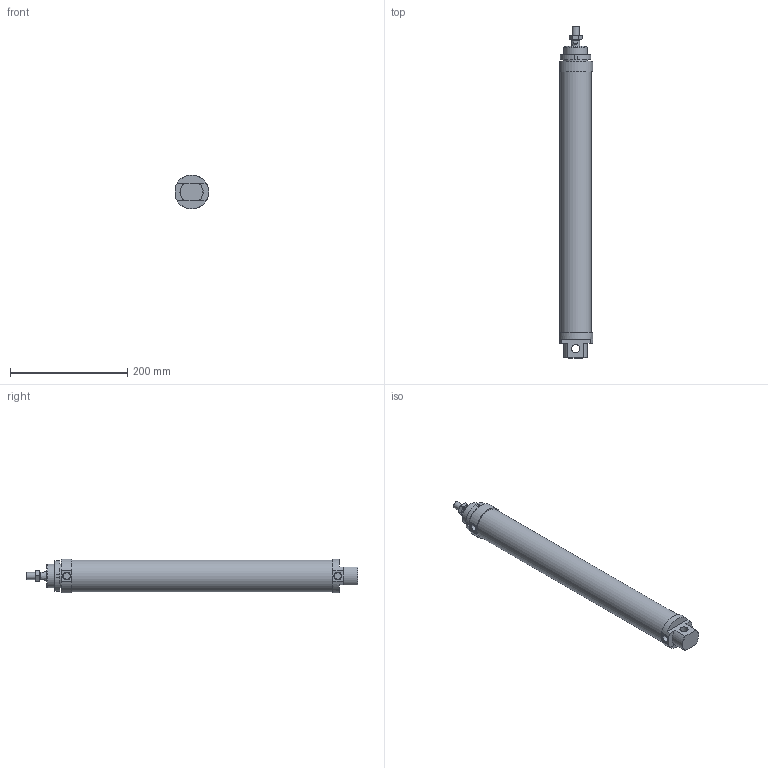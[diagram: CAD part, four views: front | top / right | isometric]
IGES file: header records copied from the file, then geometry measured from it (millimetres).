
Global section: file name: No Iges File Name specified; native system: AutoDesk Inventor R6.0; preprocessor: AutoDesk Inventor Iges Exporter R6.0; author: No Author specified; organization: No Organization specified; date: 20030402.145102; units: millimetre
Bounding box: 56.51 x 567 x 58 mm (x, y, z)
Surface area: 142049.3 mm2 (no closed solid volume)
Topology: 0 solids, 0 shells, 94 faces, 413 edges, 395 vertices
Faces by surface type: plane 44, revolution 39, bspline 11
